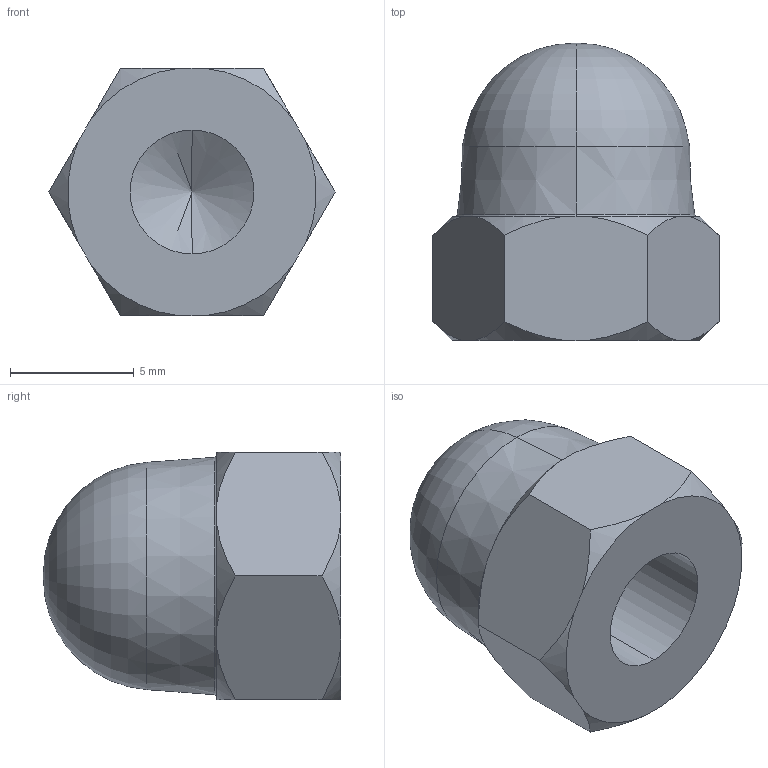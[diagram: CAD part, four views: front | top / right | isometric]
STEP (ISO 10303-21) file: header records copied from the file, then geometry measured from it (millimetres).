
FILE_DESCRIPTION (( 'STEP AP203' ), '1' );
FILE_NAME ('SAGOTOOL.P.TAN_BAU_M6.STEP', '2026-07-09T03:09:40', ( '' ), ( '' ), 'SwSTEP 2.0', 'SolidWorks 2020', '' );
FILE_SCHEMA (( 'CONFIG_CONTROL_DESIGN' ));
Length unit declared in the file: millimetre
Products named in the file (1): SAGOTOOL.P.TAN_BAU_M6
Bounding box: 11.55 x 12 x 10 mm (x, y, z)
Volume: 618.1 mm3; surface area: 612.7 mm2
Topology: 1 solids, 1 shells, 31 faces, 78 edges, 49 vertices
Faces by surface type: cone 16, plane 9, torus 4, cylinder 2
Entity records: 1115 total; most frequent: CARTESIAN_POINT 325, ORIENTED_EDGE 152, DIRECTION 144, EDGE_CURVE 76, AXIS2_PLACEMENT_3D 60, VERTEX_POINT 49, EDGE_LOOP 33, FACE_OUTER_BOUND 31
